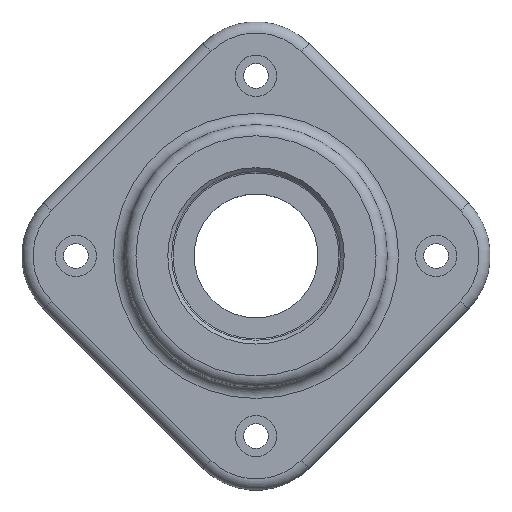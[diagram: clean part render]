
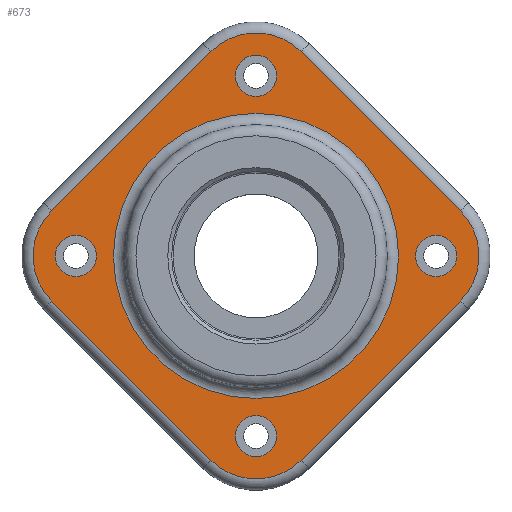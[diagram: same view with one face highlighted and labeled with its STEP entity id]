
A CAD part, top view. The second image highlights one B-rep face of the part: STEP entity #673.
In plain terms, the highlighted planar face has unit normal (0, 0, 1).
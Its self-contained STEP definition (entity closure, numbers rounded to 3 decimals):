
#31=FACE_BOUND('',#157,.T.);
#32=FACE_BOUND('',#158,.T.);
#33=FACE_BOUND('',#159,.T.);
#34=FACE_BOUND('',#160,.T.);
#35=FACE_BOUND('',#161,.T.);
#49=PLANE('',#778);
#103=FACE_OUTER_BOUND('',#156,.T.);
#156=EDGE_LOOP('',(#554,#555,#556,#557,#558,#559,#560,#561));
#157=EDGE_LOOP('',(#562));
#158=EDGE_LOOP('',(#563));
#159=EDGE_LOOP('',(#564));
#160=EDGE_LOOP('',(#565));
#161=EDGE_LOOP('',(#566));
#199=LINE('',#1173,#234);
#200=LINE('',#1177,#235);
#201=LINE('',#1181,#236);
#202=LINE('',#1185,#237);
#234=VECTOR('',#963,10.);
#235=VECTOR('',#966,10.);
#236=VECTOR('',#969,10.);
#237=VECTOR('',#972,10.);
#272=CIRCLE('',#746,5.5);
#276=CIRCLE('',#753,5.5);
#280=CIRCLE('',#760,5.5);
#284=CIRCLE('',#767,5.5);
#290=CIRCLE('',#777,38.);
#291=CIRCLE('',#779,17.);
#292=CIRCLE('',#780,17.);
#293=CIRCLE('',#781,17.);
#294=CIRCLE('',#782,17.);
#327=VERTEX_POINT('',#1112);
#331=VERTEX_POINT('',#1125);
#335=VERTEX_POINT('',#1138);
#339=VERTEX_POINT('',#1151);
#343=VERTEX_POINT('',#1167);
#344=VERTEX_POINT('',#1171);
#345=VERTEX_POINT('',#1172);
#346=VERTEX_POINT('',#1174);
#347=VERTEX_POINT('',#1176);
#348=VERTEX_POINT('',#1178);
#349=VERTEX_POINT('',#1180);
#350=VERTEX_POINT('',#1182);
#351=VERTEX_POINT('',#1184);
#392=EDGE_CURVE('',#327,#327,#272,.T.);
#398=EDGE_CURVE('',#331,#331,#276,.T.);
#404=EDGE_CURVE('',#335,#335,#280,.T.);
#410=EDGE_CURVE('',#339,#339,#284,.T.);
#419=EDGE_CURVE('',#343,#343,#290,.T.);
#420=EDGE_CURVE('',#344,#345,#199,.T.);
#421=EDGE_CURVE('',#346,#344,#291,.T.);
#422=EDGE_CURVE('',#347,#346,#200,.T.);
#423=EDGE_CURVE('',#348,#347,#292,.T.);
#424=EDGE_CURVE('',#349,#348,#201,.T.);
#425=EDGE_CURVE('',#350,#349,#293,.T.);
#426=EDGE_CURVE('',#351,#350,#202,.T.);
#427=EDGE_CURVE('',#345,#351,#294,.T.);
#554=ORIENTED_EDGE('',*,*,#420,.F.);
#555=ORIENTED_EDGE('',*,*,#421,.F.);
#556=ORIENTED_EDGE('',*,*,#422,.F.);
#557=ORIENTED_EDGE('',*,*,#423,.F.);
#558=ORIENTED_EDGE('',*,*,#424,.F.);
#559=ORIENTED_EDGE('',*,*,#425,.F.);
#560=ORIENTED_EDGE('',*,*,#426,.F.);
#561=ORIENTED_EDGE('',*,*,#427,.F.);
#562=ORIENTED_EDGE('',*,*,#392,.T.);
#563=ORIENTED_EDGE('',*,*,#398,.T.);
#564=ORIENTED_EDGE('',*,*,#404,.T.);
#565=ORIENTED_EDGE('',*,*,#410,.T.);
#566=ORIENTED_EDGE('',*,*,#419,.F.);
#673=ADVANCED_FACE('',(#103,#31,#32,#33,#34,#35),#49,.T.);
#746=AXIS2_PLACEMENT_3D('',#1113,#888,#889);
#753=AXIS2_PLACEMENT_3D('',#1126,#904,#905);
#760=AXIS2_PLACEMENT_3D('',#1139,#920,#921);
#767=AXIS2_PLACEMENT_3D('',#1152,#936,#937);
#777=AXIS2_PLACEMENT_3D('',#1169,#959,#960);
#778=AXIS2_PLACEMENT_3D('',#1170,#961,#962);
#779=AXIS2_PLACEMENT_3D('',#1175,#964,#965);
#780=AXIS2_PLACEMENT_3D('',#1179,#967,#968);
#781=AXIS2_PLACEMENT_3D('',#1183,#970,#971);
#782=AXIS2_PLACEMENT_3D('',#1186,#973,#974);
#888=DIRECTION('center_axis',(0.,0.,-1.));
#889=DIRECTION('ref_axis',(0.,-1.,0.));
#904=DIRECTION('center_axis',(0.,0.,-1.));
#905=DIRECTION('ref_axis',(-1.,0.,0.));
#920=DIRECTION('center_axis',(0.,0.,-1.));
#921=DIRECTION('ref_axis',(0.,1.,0.));
#936=DIRECTION('center_axis',(0.,0.,-1.));
#937=DIRECTION('ref_axis',(1.,0.,0.));
#959=DIRECTION('center_axis',(0.,0.,1.));
#960=DIRECTION('ref_axis',(-1.,0.,0.));
#961=DIRECTION('center_axis',(0.,0.,1.));
#962=DIRECTION('ref_axis',(1.,0.,0.));
#963=DIRECTION('',(0.707,-0.707,0.));
#964=DIRECTION('center_axis',(0.,0.,-1.));
#965=DIRECTION('ref_axis',(0.,1.,0.));
#966=DIRECTION('',(0.707,0.707,0.));
#967=DIRECTION('center_axis',(0.,0.,-1.));
#968=DIRECTION('ref_axis',(-1.,0.,0.));
#969=DIRECTION('',(-0.707,0.707,0.));
#970=DIRECTION('center_axis',(0.,0.,-1.));
#971=DIRECTION('ref_axis',(0.,-1.,0.));
#972=DIRECTION('',(-0.707,-0.707,0.));
#973=DIRECTION('center_axis',(0.,0.,-1.));
#974=DIRECTION('ref_axis',(1.,0.,0.));
#1112=CARTESIAN_POINT('',(48.,5.5,13.));
#1113=CARTESIAN_POINT('Origin',(48.,0.,13.));
#1125=CARTESIAN_POINT('',(5.5,-48.,13.));
#1126=CARTESIAN_POINT('Origin',(0.,-48.,13.));
#1138=CARTESIAN_POINT('',(-48.,-5.5,13.));
#1139=CARTESIAN_POINT('Origin',(-48.,0.,13.));
#1151=CARTESIAN_POINT('',(-5.5,48.,13.));
#1152=CARTESIAN_POINT('Origin',(0.,48.,13.));
#1167=CARTESIAN_POINT('',(38.,0.,13.));
#1169=CARTESIAN_POINT('Origin',(0.,0.,13.));
#1170=CARTESIAN_POINT('Origin',(0.,0.,
13.));
#1171=CARTESIAN_POINT('',(12.021,54.447,13.));
#1172=CARTESIAN_POINT('',(54.447,12.021,13.));
#1173=CARTESIAN_POINT('',(22.627,43.841,13.));
#1174=CARTESIAN_POINT('',(-12.021,54.447,13.));
#1175=CARTESIAN_POINT('Origin',(0.,42.426,
13.));
#1176=CARTESIAN_POINT('',(-54.447,12.021,13.));
#1177=CARTESIAN_POINT('',(-43.841,22.627,13.));
#1178=CARTESIAN_POINT('',(-54.447,-12.021,13.));
#1179=CARTESIAN_POINT('Origin',(-42.426,0.,
13.));
#1180=CARTESIAN_POINT('',(-12.021,-54.447,13.));
#1181=CARTESIAN_POINT('',(-22.627,-43.841,13.));
#1182=CARTESIAN_POINT('',(12.021,-54.447,13.));
#1183=CARTESIAN_POINT('Origin',(0.,-42.426,
13.));
#1184=CARTESIAN_POINT('',(54.447,-12.021,13.));
#1185=CARTESIAN_POINT('',(43.841,-22.627,13.));
#1186=CARTESIAN_POINT('Origin',(42.426,0.,
13.));
